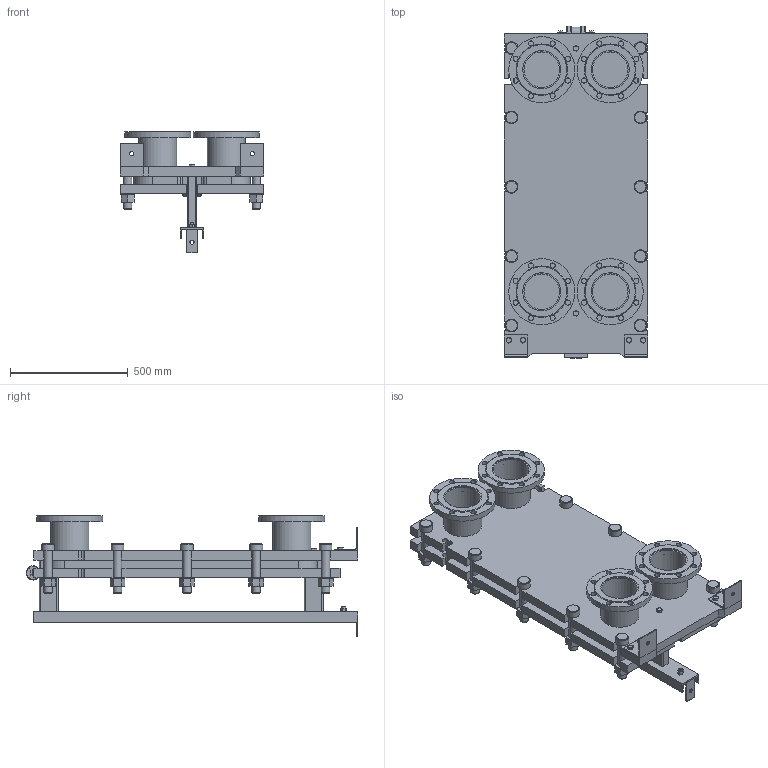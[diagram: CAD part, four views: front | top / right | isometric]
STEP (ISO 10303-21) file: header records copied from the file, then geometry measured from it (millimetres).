
FILE_DESCRIPTION(/* description */ (''),/* implementation_level */ '2;1');
FILE_NAME(/* name */ 'C:\Users\zhuro\Desktop\ENCO\TO\ЭН-041\ЭН-0,5-041-10-1.stp',/* time_stamp */ '2022-06-06T10:48:38+03:00',/* author */ ('zhuro'),/* organization */ (''),/* preprocessor_version */ 'ST-DEVELOPER v18.1',/* originating_system */ 'Autodesk Inventor 2022',/* authorisation */ '');
FILE_SCHEMA (('AUTOMOTIVE_DESIGN { 1 0 10303 214 3 1 1 }'));
Length unit declared in the file: millimetre
Products named in the file (1): ЭН-0,5-041-10-1
Bounding box: 610 x 1406.5 x 515 mm (x, y, z)
Volume: 93552707.7 mm3; surface area: 7040084.9 mm2
Topology: 52 solids, 52 shells, 711 faces, 1696 edges, 1094 vertices
Faces by surface type: plane 487, cylinder 177, cone 41, torus 6
Full cylindrical faces by diameter (mm): 8 x4, 10 x2, 16 x8, 18 x3, 22 x32, 36 x24, 50 x1, 54 x10, 60 x12, 151 x4, 161 x8, 280 x4
Entity records: 22667 total; most frequent: CARTESIAN_POINT 5230, DIRECTION 3644, ORIENTED_EDGE 3392, EDGE_CURVE 1696, AXIS2_PLACEMENT_3D 1272, LINE 1100, VECTOR 1100, VERTEX_POINT 1094
